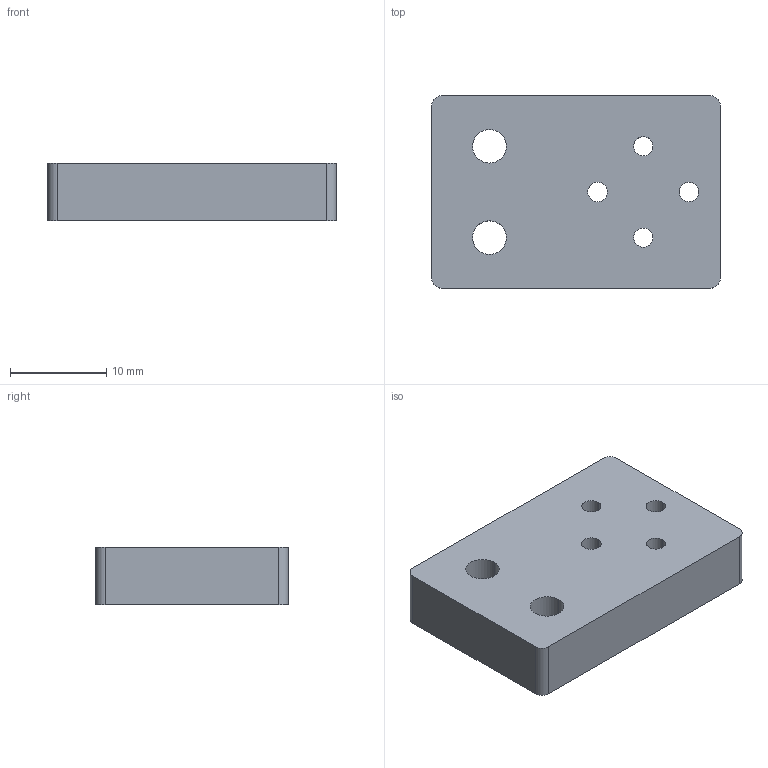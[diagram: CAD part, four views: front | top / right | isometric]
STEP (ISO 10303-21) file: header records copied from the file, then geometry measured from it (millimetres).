
FILE_DESCRIPTION (( 'STEP AP214' ), '1' );
FILE_NAME ('Pos.14 Endschalterstück (6x).STEP', '2017-03-12T09:42:04', ( 'C.Loibl@hotmail.com' ), ( '' ), 'SwSTEP 2.0', 'SolidWorks 2015', '' );
FILE_SCHEMA (( 'AUTOMOTIVE_DESIGN' ));
Length unit declared in the file: millimetre
Products named in the file (1): Pos.14 Endschalterstück (6x)
Bounding box: 30 x 20 x 6 mm (x, y, z)
Volume: 3402.1 mm3; surface area: 2008.4 mm2
Topology: 1 solids, 1 shells, 22 faces, 60 edges, 40 vertices
Faces by surface type: cylinder 16, plane 6
Entity records: 862 total; most frequent: DIRECTION 138, CARTESIAN_POINT 123, ORIENTED_EDGE 120, EDGE_CURVE 60, AXIS2_PLACEMENT_3D 55, VERTEX_POINT 40, EDGE_LOOP 34, CIRCLE 32
